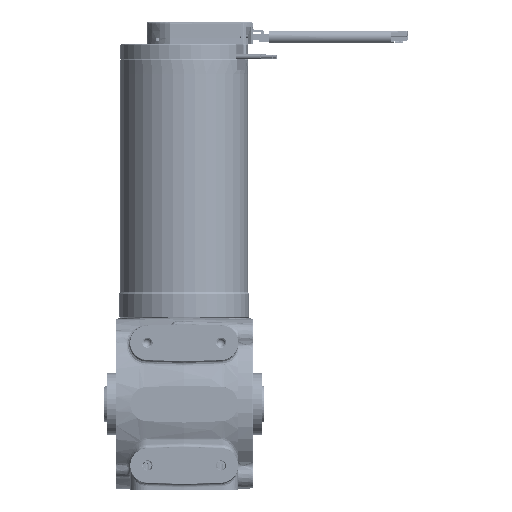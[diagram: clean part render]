
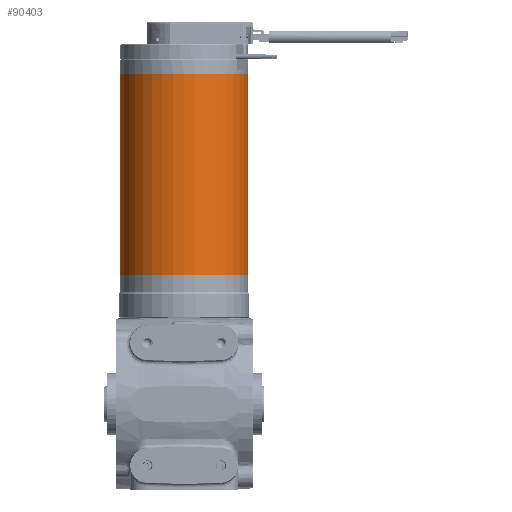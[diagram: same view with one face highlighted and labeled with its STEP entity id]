
A CAD part, front view. The second image highlights one B-rep face of the part: STEP entity #90403.
In plain terms, the highlighted cylindrical face has radius 26 mm (diameter 52 mm), a partial arc.
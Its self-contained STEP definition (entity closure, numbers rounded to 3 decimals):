
#3511 = DIRECTION ( 'NONE',  ( 0., 0., -1. ) ) ;
#4975 = CARTESIAN_POINT ( 'NONE',  ( 33.757, 20.848, 189.564 ) ) ;
#6207 = EDGE_LOOP ( 'NONE', ( #188234, #239980, #213501, #176156 ) ) ;
#16697 = CARTESIAN_POINT ( 'NONE',  ( 59.757, 20.848, 189.564 ) ) ;
#29099 = VERTEX_POINT ( 'NONE', #41068 ) ;
#29960 = AXIS2_PLACEMENT_3D ( 'NONE', #191445, #213832, #206876 ) ;
#41068 = CARTESIAN_POINT ( 'NONE',  ( 33.757, 20.848, 107.564 ) ) ;
#42217 = CYLINDRICAL_SURFACE ( 'NONE', #29960, 26. ) ;
#47536 = CIRCLE ( 'NONE', #138459, 26. ) ;
#48468 = LINE ( 'NONE', #4975, #105549 ) ;
#73102 = CARTESIAN_POINT ( 'NONE',  ( 85.757, 20.848, 189.564 ) ) ;
#73738 = VECTOR ( 'NONE', #144979, 1000. ) ;
#84121 = EDGE_CURVE ( 'NONE', #200938, #29099, #48468, .T. ) ;
#88392 = EDGE_CURVE ( 'NONE', #119328, #200938, #47536, .T. ) ;
#90403 = ADVANCED_FACE ( 'NONE', ( #247247 ), #42217, .T. ) ;
#96047 = DIRECTION ( 'NONE',  ( 1., 0., 0. ) ) ;
#105549 = VECTOR ( 'NONE', #3511, 1000. ) ;
#119328 = VERTEX_POINT ( 'NONE', #164593 ) ;
#138459 = AXIS2_PLACEMENT_3D ( 'NONE', #16697, #218898, #223328 ) ;
#138698 = CARTESIAN_POINT ( 'NONE',  ( 33.757, 20.848, 189.564 ) ) ;
#144526 = EDGE_CURVE ( 'NONE', #119328, #172795, #146443, .T. ) ;
#144979 = DIRECTION ( 'NONE',  ( 0., 0., -1. ) ) ;
#146443 = LINE ( 'NONE', #73102, #73738 ) ;
#164593 = CARTESIAN_POINT ( 'NONE',  ( 85.757, 20.848, 189.564 ) ) ;
#168309 = CIRCLE ( 'NONE', #249317, 26. ) ;
#172795 = VERTEX_POINT ( 'NONE', #292183 ) ;
#175716 = EDGE_CURVE ( 'NONE', #172795, #29099, #168309, .T. ) ;
#176156 = ORIENTED_EDGE ( 'NONE', *, *, #144526, .F. ) ;
#188234 = ORIENTED_EDGE ( 'NONE', *, *, #88392, .T. ) ;
#191445 = CARTESIAN_POINT ( 'NONE',  ( 59.757, 20.848, 189.564 ) ) ;
#200938 = VERTEX_POINT ( 'NONE', #138698 ) ;
#206876 = DIRECTION ( 'NONE',  ( 1., 0., 0. ) ) ;
#213501 = ORIENTED_EDGE ( 'NONE', *, *, #175716, .F. ) ;
#213832 = DIRECTION ( 'NONE',  ( 0., 0., -1. ) ) ;
#218898 = DIRECTION ( 'NONE',  ( 0., 0., -1. ) ) ;
#223328 = DIRECTION ( 'NONE',  ( 1., 0., 0. ) ) ;
#239980 = ORIENTED_EDGE ( 'NONE', *, *, #84121, .T. ) ;
#247247 = FACE_OUTER_BOUND ( 'NONE', #6207, .T. ) ;
#249317 = AXIS2_PLACEMENT_3D ( 'NONE', #283016, #280109, #96047 ) ;
#280109 = DIRECTION ( 'NONE',  ( 0., 0., -1. ) ) ;
#283016 = CARTESIAN_POINT ( 'NONE',  ( 59.757, 20.848, 107.564 ) ) ;
#292183 = CARTESIAN_POINT ( 'NONE',  ( 85.757, 20.848, 107.564 ) ) ;
